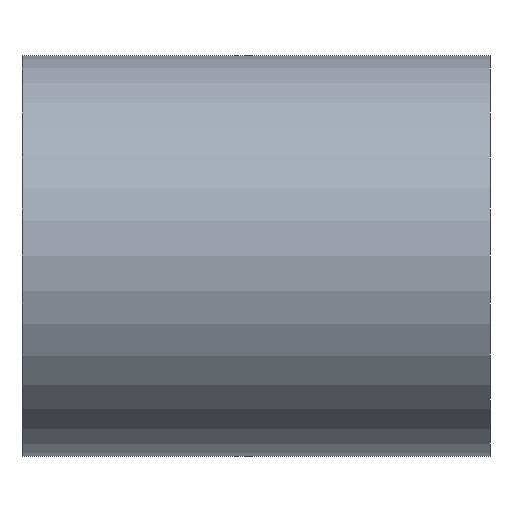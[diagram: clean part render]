
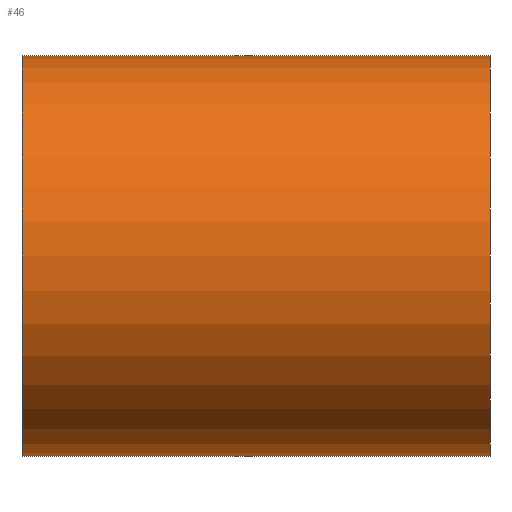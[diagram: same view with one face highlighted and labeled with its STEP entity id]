
A CAD part, left-side view. The second image highlights one B-rep face of the part: STEP entity #46.
In plain terms, the highlighted cylindrical face has radius 4343.4 mm (diameter 8686.8 mm), a full revolution.
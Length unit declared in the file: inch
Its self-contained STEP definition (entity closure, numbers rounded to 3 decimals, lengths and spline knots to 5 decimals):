
#46=ADVANCED_FACE('',(#50,#51),#49,.T.);
#49=CYLINDRICAL_SURFACE('',#69,171.);
#50=FACE_BOUND('',#52,.T.);
#51=FACE_BOUND('',#53,.T.);
#52=EDGE_LOOP('',(#56));
#53=EDGE_LOOP('',(#57));
#56=ORIENTED_EDGE('',*,*,#62,.F.);
#57=ORIENTED_EDGE('',*,*,#63,.T.);
#60=VERTEX_POINT('',#86);
#61=VERTEX_POINT('',#88);
#62=EDGE_CURVE('',#60,#60,#64,.T.);
#63=EDGE_CURVE('',#61,#61,#65,.T.);
#64=CIRCLE('',#67,171.);
#65=CIRCLE('',#68,171.);
#67=AXIS2_PLACEMENT_3D('',#85,#74,#75);
#68=AXIS2_PLACEMENT_3D('',#87,#76,#77);
#69=AXIS2_PLACEMENT_3D('',#89,#78,#79);
#74=DIRECTION('',(0.,1.,0.));
#75=DIRECTION('',(0.,0.,1.));
#76=DIRECTION('',(0.,1.,0.));
#77=DIRECTION('',(0.,0.,1.));
#78=DIRECTION('',(0.,-1.,0.));
#79=DIRECTION('',(0.,0.,-1.));
#85=CARTESIAN_POINT('',(156.,200.,0.));
#86=CARTESIAN_POINT('',(156.,200.,171.));
#87=CARTESIAN_POINT('',(156.,-200.,0.));
#88=CARTESIAN_POINT('',(156.,-200.,171.));
#89=CARTESIAN_POINT('',(156.,200.,0.));
